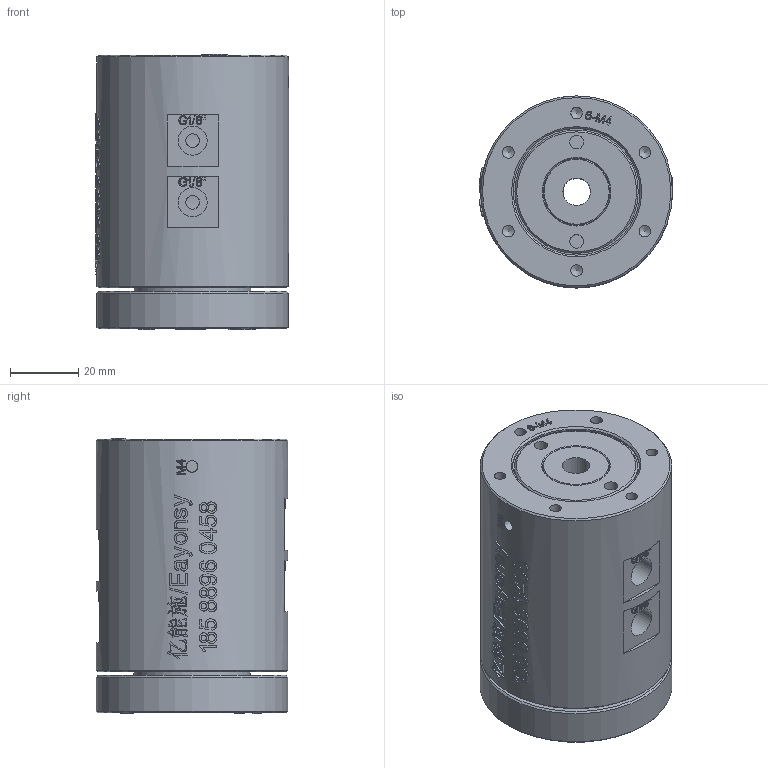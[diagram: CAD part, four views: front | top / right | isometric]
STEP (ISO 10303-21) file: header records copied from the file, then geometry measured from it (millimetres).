
FILE_DESCRIPTION(/* description */ (''),/* implementation_level */ '2;1');
FILE_NAME(/* name */ 'YQD0401-3D模型.stp',/* time_stamp */ '2025-09-05T11:57:50+08:00',/* author */ (''),/* organization */ (''),/* preprocessor_version */ 'ST-DEVELOPER v16.7',/* originating_system */ 'SIEMENS PLM Software NX 12.0',/* authorisation */ '');
FILE_SCHEMA (('AUTOMOTIVE_DESIGN { 1 0 10303 214 3 1 1 1 }'));
Products named in the file (1): Admi30D0F0663crm
Bounding box: 56.63 x 56 x 80.4 mm (x, y, z)
Volume: 185941.8 mm3; surface area: 27413.3 mm2
Topology: 1 solids, 1 shells, 1601 faces, 4370 edges, 2914 vertices
Faces by surface type: extrusion 851, plane 596, bspline 81, cylinder 54, cone 19
Full cylindrical faces by diameter (mm): 3.4 x12, 4 x8, 8 x1, 8.5 x6, 34 x1, 37 x1, 42 x1, 56 x2
Entity records: 61698 total; most frequent: CARTESIAN_POINT 27955, ORIENTED_EDGE 8574, EDGE_CURVE 4287, B_SPLINE_CURVE_WITH_KNOTS 4116, DIRECTION 3454, VERTEX_POINT 2893, EDGE_LOOP 1798, VECTOR 1632
